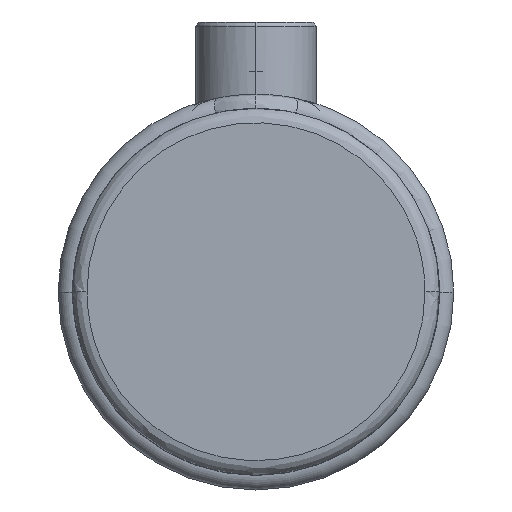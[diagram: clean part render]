
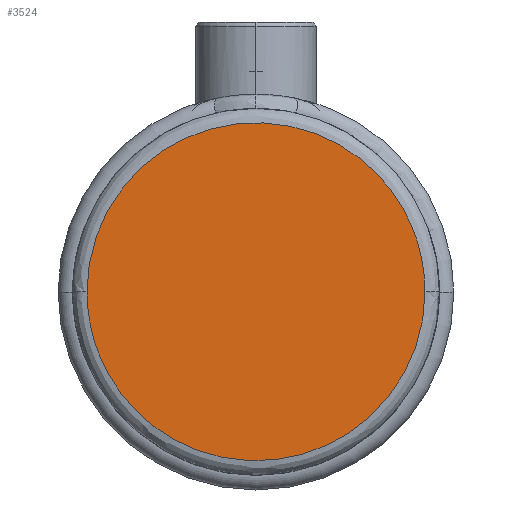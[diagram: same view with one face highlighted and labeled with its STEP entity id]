
A CAD part, top view. The second image highlights one B-rep face of the part: STEP entity #3524.
In plain terms, the highlighted planar face has unit normal (0, 0, 1).
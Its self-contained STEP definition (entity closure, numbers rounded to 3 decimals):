
#165 = DIRECTION ( 'NONE',  ( 0., 0., 1. ) ) ;
#181 = AXIS2_PLACEMENT_3D ( 'NONE', #8536, #165, #6082 ) ;
#399 = CARTESIAN_POINT ( 'NONE',  ( 35.1, 0., 50. ) ) ;
#593 = CARTESIAN_POINT ( 'NONE',  ( -35.1, 0., 50. ) ) ;
#600 =( BOUNDED_CURVE ( )  B_SPLINE_CURVE ( 3, ( #4808, #10669, #5648, #593 ),
 .UNSPECIFIED., .F., .T. ) 
 B_SPLINE_CURVE_WITH_KNOTS ( ( 4, 4 ),
 ( 0.25, 0.75 ),
 .UNSPECIFIED. ) 
 CURVE ( )  GEOMETRIC_REPRESENTATION_ITEM ( )  RATIONAL_B_SPLINE_CURVE ( ( 1., 0.333, 0.333, 1. ) ) 
 REPRESENTATION_ITEM ( '' )  );
#1587 = FACE_OUTER_BOUND ( 'NONE', #3529, .T. ) ;
#1651 = ORIENTED_EDGE ( 'NONE', *, *, #9911, .F. ) ;
#2936 = EDGE_CURVE ( 'NONE', #9518, #9357, #9671, .T. ) ;
#3524 = ADVANCED_FACE ( 'NONE', ( #1587 ), #6879, .T. ) ;
#3529 = EDGE_LOOP ( 'NONE', ( #1651, #6129 ) ) ;
#4808 = CARTESIAN_POINT ( 'NONE',  ( 35.1, 0., 50. ) ) ;
#5648 = CARTESIAN_POINT ( 'NONE',  ( -35.1, -70.2, 50. ) ) ;
#6082 = DIRECTION ( 'NONE',  ( 1., 0., 0. ) ) ;
#6129 = ORIENTED_EDGE ( 'NONE', *, *, #2936, .F. ) ;
#6879 = PLANE ( 'NONE',  #181 ) ;
#7786 = CARTESIAN_POINT ( 'NONE',  ( -35.1, 0., 50. ) ) ;
#8536 = CARTESIAN_POINT ( 'NONE',  ( 0., 19.05, 50. ) ) ;
#8918 = CARTESIAN_POINT ( 'NONE',  ( -35.1, 70.2, 50. ) ) ;
#9357 = VERTEX_POINT ( 'NONE', #9589 ) ;
#9518 = VERTEX_POINT ( 'NONE', #7786 ) ;
#9589 = CARTESIAN_POINT ( 'NONE',  ( 35.1, 0., 50. ) ) ;
#9616 = CARTESIAN_POINT ( 'NONE',  ( 35.1, 70.2, 50. ) ) ;
#9671 =( BOUNDED_CURVE ( )  B_SPLINE_CURVE ( 3, ( #10475, #8918, #9616, #399 ),
 .UNSPECIFIED., .F., .F. ) 
 B_SPLINE_CURVE_WITH_KNOTS ( ( 4, 4 ),
 ( 0.75, 1.25 ),
 .UNSPECIFIED. ) 
 CURVE ( )  GEOMETRIC_REPRESENTATION_ITEM ( )  RATIONAL_B_SPLINE_CURVE ( ( 1., 0.333, 0.333, 1. ) ) 
 REPRESENTATION_ITEM ( '' )  );
#9911 = EDGE_CURVE ( 'NONE', #9357, #9518, #600, .T. ) ;
#10475 = CARTESIAN_POINT ( 'NONE',  ( -35.1, 0., 50. ) ) ;
#10669 = CARTESIAN_POINT ( 'NONE',  ( 35.1, -70.2, 50. ) ) ;
